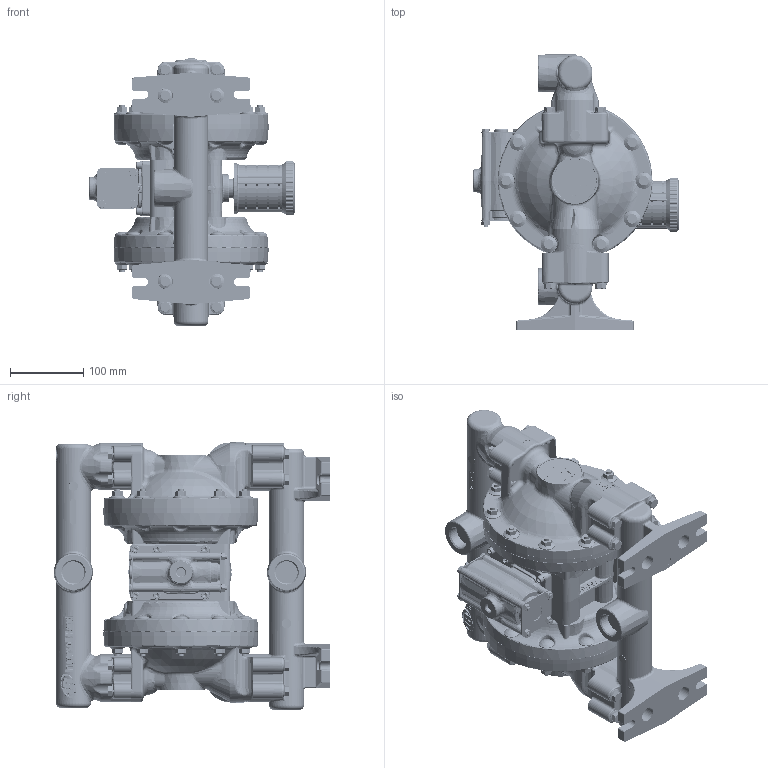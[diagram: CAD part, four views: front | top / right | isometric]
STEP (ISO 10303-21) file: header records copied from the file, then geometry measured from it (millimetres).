
FILE_DESCRIPTION(/* description */ (''),/* implementation_level */ '2;1');
FILE_NAME(/* name */ 'PD10P-AXX-XXX_10',/* time_stamp */ '2008-10-03T09:43:21-04:00',/* author */ (''),/* organization */ (''),/* preprocessor_version */ 'ST-DEVELOPER v9',/* originating_system */ 'UGS - NX 4.0',/* authorisation */ '');
FILE_SCHEMA (('AUTOMOTIVE_DESIGN { 1 0 10303 214 1 1 1 1 }'));
Length unit declared in the file: inch
Products named in the file (1): szee8D115un7
Bounding box: 279.52 x 376.52 x 364.81 mm (x, y, z)
Volume: 9527413.3 mm3; surface area: 644403.1 mm2
Topology: 3 solids, 3 shells, 11863 faces, 31287 edges, 20082 vertices
Faces by surface type: plane 7732, cylinder 1248, bspline 1154, extrusion 816, cone 501, torus 262, sphere 150
Full cylindrical faces by diameter (mm): 0.18 x2, 1.626 x2, 1.905 x2, 2.769 x2, 5.795 x6, 5.994 x1, 6.35 x2, 6.4 x2, 6.807 x16, 7.76 x16, 7.794 x20, 8.992 x16, 10 x10, 11.676 x1, 12 x6, 12.7 x4, 18 x16, 19.05 x2, 20.625 x4, 20.65 x20, 22.225 x22, 26.67 x1, 30.145 x2, 31.75 x1, 47.625 x2, 57.15 x2, 59.08 x2, 69.215 x1, 210.681 x2, 211.125 x2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
Entity records: 413132 total; most frequent: CARTESIAN_POINT 136586, ORIENTED_EDGE 61174, DIRECTION 49821, EDGE_CURVE 30587, VECTOR 20105, VERTEX_POINT 19879, LINE 19289, AXIS2_PLACEMENT_3D 14858
